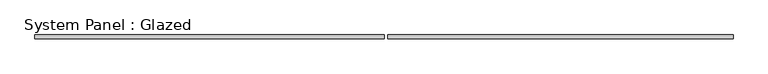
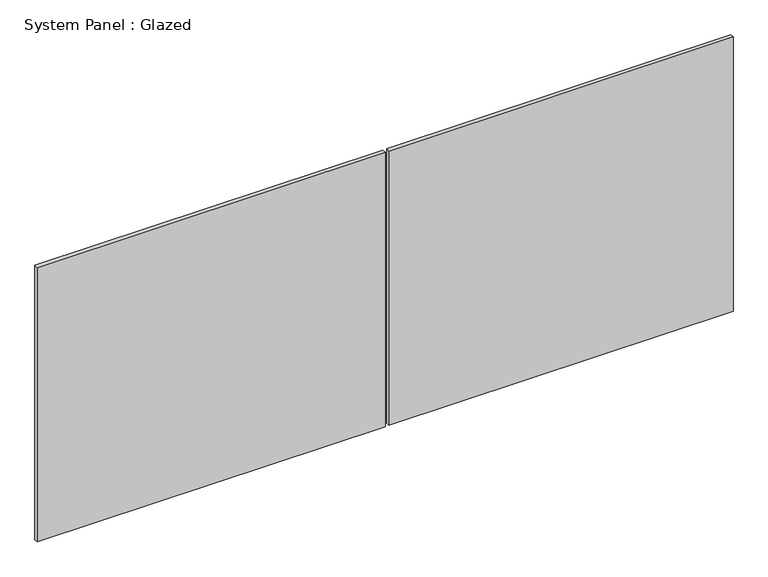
"""IFC4 building model written with IfcOpenShell, lengths in millimetres: plate geometry, System Panel : Glazed."""

from ifc_helpers import new_model, si_unit, origin, origin_with_axes, place, context, project, spatial, polyline, outline, extrude, source, transform, mapped, element, save


def system_panel_glazed_29269e8f(model_context):
    return source(origin(), model_context, "Body", "SweptSolid", [
        extrude(outline(polyline([(2400.0, 24.5), (25.0, 24.5), (25.0, 49.5), (2400.0, 49.5), (2400.0, 24.5)])), origin_with_axes(), (0.0, 0.0, 1.0), 2000.0),
        extrude(outline(polyline([(0.0, 24.5), (-2400.0, 24.5), (-2400.0, 49.5), (0.0, 49.5), (0.0, 24.5)])), origin_with_axes(), (0.0, 0.0, 1.0), 2000.0),
    ])


if __name__ == "__main__":
    model = new_model("IFC4")
    model_context = context("Model", 3, world=origin())
    ifc_project = project(units=[si_unit("LENGTHUNIT", "METRE", prefix="MILLI")], contexts=[model_context])
    site = spatial("IfcSite", under=ifc_project)
    building = spatial("IfcBuilding", under=site)
    placement = place(None, origin())
    system_panel_glazed_shape = system_panel_glazed_29269e8f(model_context)
    element("IfcPlate", 1, ObjectType="System Panel : Glazed", at=placement, inside=building, context=model_context, shape_type="MappedRepresentation", body=[
        mapped(system_panel_glazed_shape, transform((0.0, 0.0, 0.0), x_axis=(1.0, 0.0, 0.0), y_axis=(0.0, 1.0, 0.0), z_axis=(0.0, 0.0, 1.0))),
    ])
    save(model, "model.ifc")
